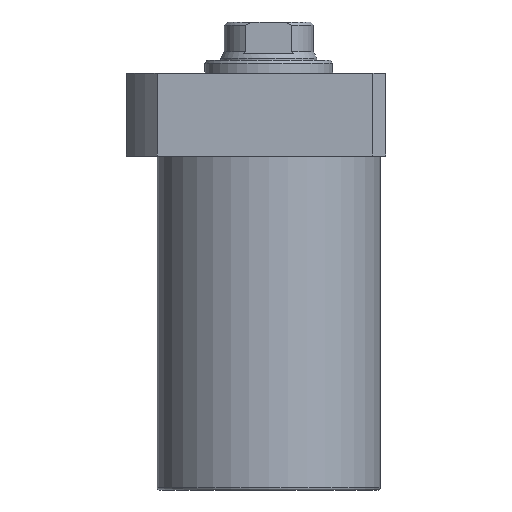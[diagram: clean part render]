
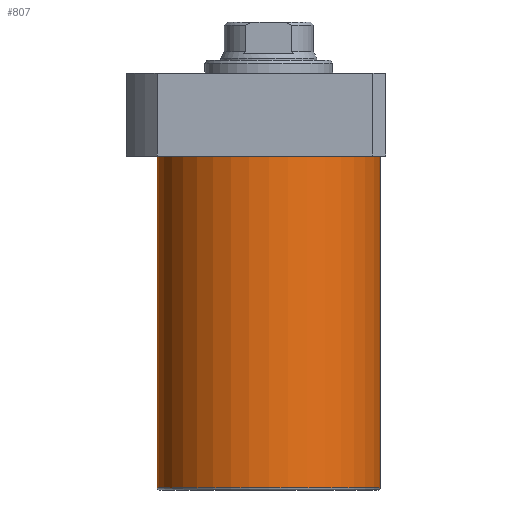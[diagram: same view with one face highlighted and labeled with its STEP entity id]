
A CAD part, front view. The second image highlights one B-rep face of the part: STEP entity #807.
In plain terms, the highlighted cylindrical face has radius 52.5 mm (diameter 105 mm), a partial arc.
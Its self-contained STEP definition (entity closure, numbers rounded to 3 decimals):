
#37 = DIRECTION ( 'NONE',  ( 1., 0., 0. ) ) ;
#55 = VECTOR ( 'NONE', #1919, 1000. ) ;
#80 = CYLINDRICAL_SURFACE ( 'NONE', #1828, 52.5 ) ;
#235 = CARTESIAN_POINT ( 'NONE',  ( -52.5, 0., -176.5 ) ) ;
#248 = DIRECTION ( 'NONE',  ( 1., 0., 0. ) ) ;
#268 = LINE ( 'NONE', #235, #565 ) ;
#330 = ORIENTED_EDGE ( 'NONE', *, *, #1321, .T. ) ;
#341 = EDGE_CURVE ( 'NONE', #1210, #1910, #1935, .T. ) ;
#456 = AXIS2_PLACEMENT_3D ( 'NONE', #1536, #1687, #37 ) ;
#512 = EDGE_CURVE ( 'NONE', #1101, #1155, #751, .T. ) ;
#555 = DIRECTION ( 'NONE',  ( 0., 0., 1. ) ) ;
#565 = VECTOR ( 'NONE', #1320, 1000. ) ;
#705 = CARTESIAN_POINT ( 'NONE',  ( 0., 0., -176.5 ) ) ;
#718 = DIRECTION ( 'NONE',  ( 0., 0., 1. ) ) ;
#751 = CIRCLE ( 'NONE', #456, 52.5 ) ;
#807 = ADVANCED_FACE ( 'NONE', ( #1695 ), #80, .T. ) ;
#882 = EDGE_CURVE ( 'NONE', #1210, #1155, #268, .T. ) ;
#940 = ORIENTED_EDGE ( 'NONE', *, *, #341, .T. ) ;
#1008 = ORIENTED_EDGE ( 'NONE', *, *, #882, .F. ) ;
#1015 = CARTESIAN_POINT ( 'NONE',  ( 52.5, 0., -176.5 ) ) ;
#1089 = CARTESIAN_POINT ( 'NONE',  ( 52.5, 0., -19.5 ) ) ;
#1101 = VERTEX_POINT ( 'NONE', #1089 ) ;
#1155 = VERTEX_POINT ( 'NONE', #1697 ) ;
#1210 = VERTEX_POINT ( 'NONE', #1881 ) ;
#1320 = DIRECTION ( 'NONE',  ( 0., 0., 1. ) ) ;
#1321 = EDGE_CURVE ( 'NONE', #1910, #1101, #1704, .T. ) ;
#1502 = DIRECTION ( 'NONE',  ( -1., 0., 0. ) ) ;
#1536 = CARTESIAN_POINT ( 'NONE',  ( 0., 0., -19.5 ) ) ;
#1687 = DIRECTION ( 'NONE',  ( 0., 0., -1. ) ) ;
#1688 = CARTESIAN_POINT ( 'NONE',  ( 52.5, 0., -175.5 ) ) ;
#1695 = FACE_OUTER_BOUND ( 'NONE', #1837, .T. ) ;
#1697 = CARTESIAN_POINT ( 'NONE',  ( -52.5, 0., -19.5 ) ) ;
#1704 = LINE ( 'NONE', #1015, #55 ) ;
#1759 = AXIS2_PLACEMENT_3D ( 'NONE', #1941, #718, #1502 ) ;
#1799 = ORIENTED_EDGE ( 'NONE', *, *, #512, .T. ) ;
#1828 = AXIS2_PLACEMENT_3D ( 'NONE', #705, #555, #248 ) ;
#1837 = EDGE_LOOP ( 'NONE', ( #1008, #940, #330, #1799 ) ) ;
#1881 = CARTESIAN_POINT ( 'NONE',  ( -52.5, 0., -175.5 ) ) ;
#1910 = VERTEX_POINT ( 'NONE', #1688 ) ;
#1919 = DIRECTION ( 'NONE',  ( 0., 0., 1. ) ) ;
#1935 = CIRCLE ( 'NONE', #1759, 52.5 ) ;
#1941 = CARTESIAN_POINT ( 'NONE',  ( 0., 0., -175.5 ) ) ;
